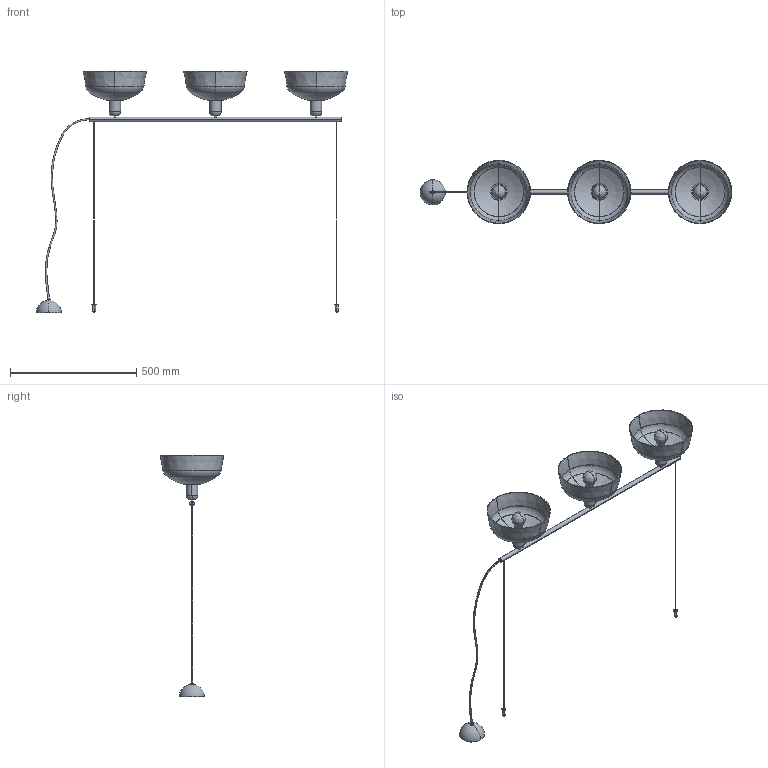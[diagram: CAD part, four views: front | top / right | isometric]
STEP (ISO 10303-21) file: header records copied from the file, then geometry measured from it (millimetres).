
FILE_DESCRIPTION(/* description */ (''),/* implementation_level */ '2;1');
FILE_NAME(/* name */ 'tatawin_pendantlamp_linear_m_3.step',/* time_stamp */ '2024-10-22T11:14:22+02:00',/* author */ ('RenataManzini'),/* organization */ (''),/* preprocessor_version */ 'ST-DEVELOPER v20',/* originating_system */ 'AutoCAD Mechanical',/* authorisation */ '');
FILE_SCHEMA (('AUTOMOTIVE_DESIGN { 1 0 10303 214 3 1 1 }'));
Length unit declared in the file: millimetre
Products named in the file (1): Product
Bounding box: 1235.29 x 251.84 x 958.29 mm (x, y, z)
Volume: 1557949 mm3; surface area: 1421911.4 mm2
Topology: 21 solids, 21 shells, 372 faces, 746 edges, 404 vertices
Faces by surface type: plane 144, cylinder 108, bspline 62, cone 30, torus 24, sphere 4
Entity records: 14639 total; most frequent: CARTESIAN_POINT 7073, DIRECTION 1708, ORIENTED_EDGE 1456, EDGE_CURVE 728, AXIS2_PLACEMENT_3D 713, CIRCLE 402, VERTEX_POINT 396, EDGE_LOOP 384
